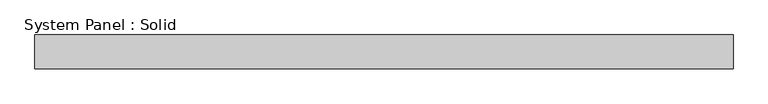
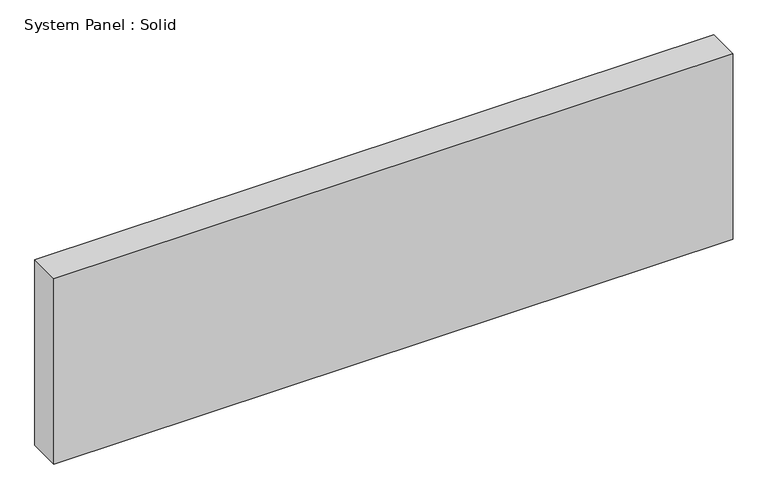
"""IFC4 building model written with IfcOpenShell, lengths in millimetres: plate geometry, System Panel : Solid."""

from ifc_helpers import new_model, si_unit, origin, origin_with_axes, place, context, project, spatial, polyline, outline, extrude, source, transform, mapped, element, save


def system_panel_solid_387147e7(model_context):
    return source(origin(), model_context, "Body", "SweptSolid", [
        extrude(outline(polyline([(656.9445429, -19.05), (-656.9445429, -19.05), (-656.9445429, 44.45), (656.9445429, 44.45), (656.9445429, -19.05)])), origin_with_axes(), (0.0, 0.0, 1.0), 379.1388226),
    ])


if __name__ == "__main__":
    model = new_model("IFC4")
    model_context = context("Model", 3, world=origin())
    ifc_project = project(units=[si_unit("LENGTHUNIT", "METRE", prefix="MILLI")], contexts=[model_context])
    site = spatial("IfcSite", under=ifc_project)
    building = spatial("IfcBuilding", under=site)
    placement = place(None, origin())
    system_panel_solid_shape = system_panel_solid_387147e7(model_context)
    element("IfcPlate", 1, ObjectType="System Panel : Solid", at=placement, inside=building, context=model_context, shape_type="MappedRepresentation", body=[
        mapped(system_panel_solid_shape, transform((0.0, 0.0, 0.0), x_axis=(1.0, 0.0, 0.0), y_axis=(0.0, 1.0, 0.0), z_axis=(0.0, 0.0, 1.0))),
    ])
    save(model, "model.ifc")
